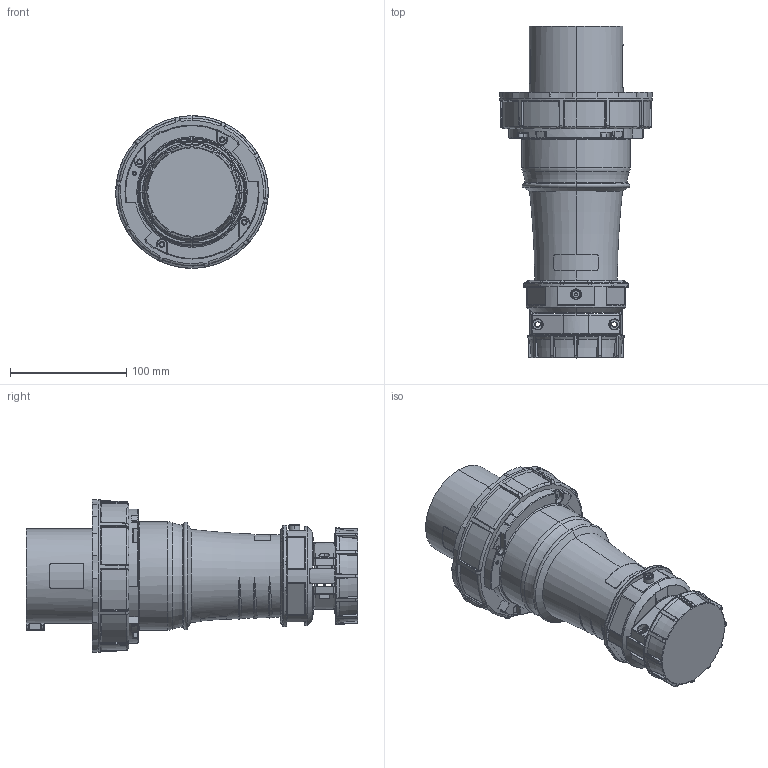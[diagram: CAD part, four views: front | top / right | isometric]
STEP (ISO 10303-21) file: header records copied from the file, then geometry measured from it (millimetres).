
FILE_DESCRIPTION (( 'STEP AP203' ), '1' );
FILE_NAME ('DIS21812536 (CP 4p 125ﾀ 400ﾂ IP67).STEP', '2024-08-09T10:52:30', ( '' ), ( '' ), 'SwSTEP 2.0', 'SolidWorks 2022', '' );
FILE_SCHEMA (( 'CONFIG_CONTROL_DESIGN' ));
Products named in the file (1): DIS21812536 (CP 4p 125А 400В IP67)
Bounding box: 131.42 x 286 x 131.46 mm (x, y, z)
Volume: 1295220.5 mm3; surface area: 181894.2 mm2
Topology: 1 solids, 21 shells, 2604 faces, 6516 edges, 3857 vertices
Faces by surface type: cylinder 784, plane 707, bspline 506, torus 271, cone 186, sphere 150
Entity records: 93340 total; most frequent: CARTESIAN_POINT 37192, ORIENTED_EDGE 12774, DIRECTION 10503, EDGE_CURVE 6387, AXIS2_PLACEMENT_3D 4239, VERTEX_POINT 3855, EDGE_LOOP 2664, FACE_OUTER_BOUND 2604
